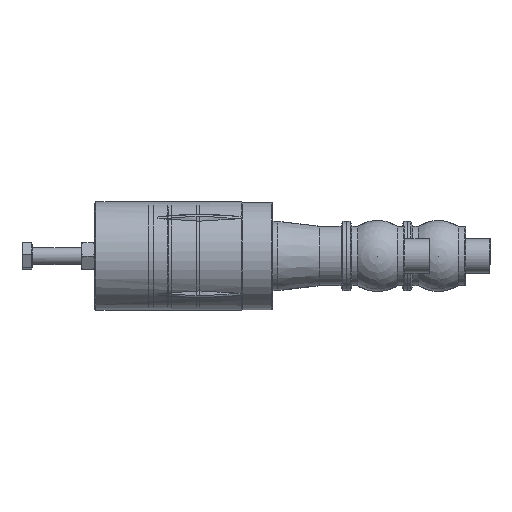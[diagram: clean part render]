
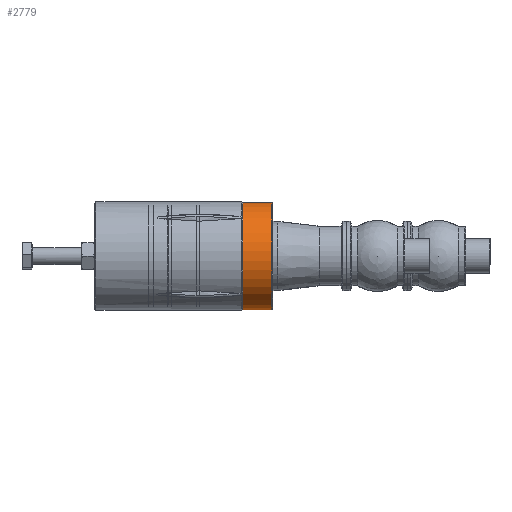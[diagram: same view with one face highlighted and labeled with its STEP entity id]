
A CAD part, left-side view. The second image highlights one B-rep face of the part: STEP entity #2779.
In plain terms, the highlighted cylindrical face has radius 44.25 mm (diameter 88.5 mm), a full revolution.
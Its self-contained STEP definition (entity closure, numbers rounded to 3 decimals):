
#2642=CARTESIAN_POINT('',(-31.289,168.5,31.289));
#2643=VERTEX_POINT('',#2642);
#2644=CARTESIAN_POINT('',(0.,168.5,0.));
#2645=DIRECTION('',(0.,-1.,0.));
#2646=DIRECTION('',(-0.707,0.,0.707));
#2647=AXIS2_PLACEMENT_3D('',#2644,#2645,#2646);
#2648=CIRCLE('',#2647,44.25);
#2649=EDGE_CURVE('',#2643,#2643,#2648,.T.);
#2678=CARTESIAN_POINT('',(-31.289,192.5,31.289));
#2679=VERTEX_POINT('',#2678);
#2680=CARTESIAN_POINT('',(0.,192.5,0.));
#2681=DIRECTION('',(0.,-1.,0.));
#2682=DIRECTION('',(-0.707,0.,0.707));
#2683=AXIS2_PLACEMENT_3D('',#2680,#2681,#2682);
#2684=CIRCLE('',#2683,44.25);
#2685=EDGE_CURVE('',#2679,#2679,#2684,.T.);
#2690=CARTESIAN_POINT('',(0.,180.5,0.));
#2691=DIRECTION('',(0.,-1.0,0.));
#2692=DIRECTION('',(-0.707,0.,0.707));
#2693=AXIS2_PLACEMENT_3D('',#2690,#2691,#2692);
#2694=CYLINDRICAL_SURFACE('',#2693,44.25);
#2695=ORIENTED_EDGE('',*,*,#2649,.F.);
#2696=EDGE_LOOP('',(#2695));
#2697=FACE_OUTER_BOUND('',#2696,.T.);
#2698=CARTESIAN_POINT('',(44.042,180.,4.283));
#2699=VERTEX_POINT('',#2698);
#2700=CARTESIAN_POINT('',(44.25,184.283,0.));
#2701=VERTEX_POINT('',#2700);
#2702=CARTESIAN_POINT('',(44.042,180.,4.283));
#2703=CARTESIAN_POINT('',(44.042,180.538,4.283));
#2704=CARTESIAN_POINT('',(44.053,181.112,4.175));
#2705=CARTESIAN_POINT('',(44.092,182.167,3.738));
#2706=CARTESIAN_POINT('',(44.12,182.648,3.409));
#2707=CARTESIAN_POINT('',(44.172,183.409,2.648));
#2708=CARTESIAN_POINT('',(44.2,183.738,2.167));
#2709=CARTESIAN_POINT('',(44.239,184.175,1.112));
#2710=CARTESIAN_POINT('',(44.25,184.283,0.538));
#2711=CARTESIAN_POINT('',(44.25,184.283,0.));
#2712=B_SPLINE_CURVE_WITH_KNOTS('',3,(#2702,#2703,#2704,#2705,#2706,#2707,#2708,#2709,#2710,#2711),.UNSPECIFIED.,.F.,.U.,(4,2,2,2,4),(0.0,0.161,0.323,0.484,0.646),.UNSPECIFIED.);
#2713=EDGE_CURVE('',#2699,#2701,#2712,.T.);
#2714=ORIENTED_EDGE('',*,*,#2713,.T.);
#2715=CARTESIAN_POINT('',(44.25,186.461,0.));
#2716=VERTEX_POINT('',#2715);
#2717=CARTESIAN_POINT('',(44.25,186.461,0.));
#2718=DIRECTION('',(0.0,-1.0,0.0));
#2719=VECTOR('',#2718,2.178);
#2720=LINE('',#2717,#2719);
#2721=EDGE_CURVE('',#2716,#2701,#2720,.T.);
#2722=ORIENTED_EDGE('',*,*,#2721,.F.);
#2723=ORIENTED_EDGE('',*,*,#2721,.T.);
#2724=CARTESIAN_POINT('',(44.25,175.717,0.));
#2725=VERTEX_POINT('',#2724);
#2726=CARTESIAN_POINT('',(44.25,184.283,0.));
#2727=CARTESIAN_POINT('',(44.25,184.283,-0.538));
#2728=CARTESIAN_POINT('',(44.239,184.175,-1.112));
#2729=CARTESIAN_POINT('',(44.2,183.738,-2.167));
#2730=CARTESIAN_POINT('',(44.172,183.409,-2.648));
#2731=CARTESIAN_POINT('',(44.12,182.648,-3.409));
#2732=CARTESIAN_POINT('',(44.092,182.167,-3.738));
#2733=CARTESIAN_POINT('',(44.053,181.112,-4.175));
#2734=CARTESIAN_POINT('',(44.042,180.538,-4.283));
#2735=CARTESIAN_POINT('',(44.042,179.462,-4.283));
#2736=CARTESIAN_POINT('',(44.053,178.888,-4.175));
#2737=CARTESIAN_POINT('',(44.092,177.833,-3.738));
#2738=CARTESIAN_POINT('',(44.12,177.352,-3.409));
#2739=CARTESIAN_POINT('',(44.172,176.591,-2.648));
#2740=CARTESIAN_POINT('',(44.2,176.262,-2.167));
#2741=CARTESIAN_POINT('',(44.239,175.825,-1.112));
#2742=CARTESIAN_POINT('',(44.25,175.717,-0.538));
#2743=CARTESIAN_POINT('',(44.25,175.717,0.));
#2744=B_SPLINE_CURVE_WITH_KNOTS('',3,(#2726,#2727,#2728,#2729,#2730,#2731,#2732,#2733,#2734,#2735,#2736,#2737,#2738,#2739,#2740,#2741,#2742,#2743),.UNSPECIFIED.,.F.,.U.,(4,2,2,2,2,2,2,2,4),(0.646,0.807,0.969,1.13,1.292,1.453,1.614,1.776,1.937),.UNSPECIFIED.);
#2745=EDGE_CURVE('',#2701,#2725,#2744,.T.);
#2746=ORIENTED_EDGE('',*,*,#2745,.T.);
#2747=CARTESIAN_POINT('',(44.25,173.539,0.));
#2748=VERTEX_POINT('',#2747);
#2749=CARTESIAN_POINT('',(44.25,175.717,0.));
#2750=DIRECTION('',(0.0,-1.0,0.0));
#2751=VECTOR('',#2750,2.178);
#2752=LINE('',#2749,#2751);
#2753=EDGE_CURVE('',#2725,#2748,#2752,.T.);
#2754=ORIENTED_EDGE('',*,*,#2753,.T.);
#2755=CARTESIAN_POINT('',(44.25,175.717,0.));
#2756=DIRECTION('',(0.0,-1.0,0.0));
#2757=VECTOR('',#2756,2.178);
#2758=LINE('',#2755,#2757);
#2759=EDGE_CURVE('',#2725,#2748,#2758,.T.);
#2760=ORIENTED_EDGE('',*,*,#2759,.F.);
#2761=CARTESIAN_POINT('',(44.25,175.717,0.));
#2762=CARTESIAN_POINT('',(44.25,175.717,0.538));
#2763=CARTESIAN_POINT('',(44.239,175.825,1.112));
#2764=CARTESIAN_POINT('',(44.2,176.262,2.167));
#2765=CARTESIAN_POINT('',(44.172,176.591,2.648));
#2766=CARTESIAN_POINT('',(44.12,177.352,3.409));
#2767=CARTESIAN_POINT('',(44.092,177.833,3.738));
#2768=CARTESIAN_POINT('',(44.053,178.888,4.175));
#2769=CARTESIAN_POINT('',(44.042,179.462,4.283));
#2770=CARTESIAN_POINT('',(44.042,180.,4.283));
#2771=B_SPLINE_CURVE_WITH_KNOTS('',3,(#2761,#2762,#2763,#2764,#2765,#2766,#2767,#2768,#2769,#2770),.UNSPECIFIED.,.F.,.U.,(4,2,2,2,4),(1.937,2.099,2.26,2.422,2.583),.UNSPECIFIED.);
#2772=EDGE_CURVE('',#2725,#2699,#2771,.T.);
#2773=ORIENTED_EDGE('',*,*,#2772,.T.);
#2774=EDGE_LOOP('',(#2714,#2722,#2723,#2746,#2754,#2760,#2773));
#2775=FACE_BOUND('',#2774,.T.);
#2776=ORIENTED_EDGE('',*,*,#2685,.T.);
#2777=EDGE_LOOP('',(#2776));
#2778=FACE_BOUND('',#2777,.T.);
#2779=ADVANCED_FACE('',(#2697,#2775,#2778),#2694,.T.);
